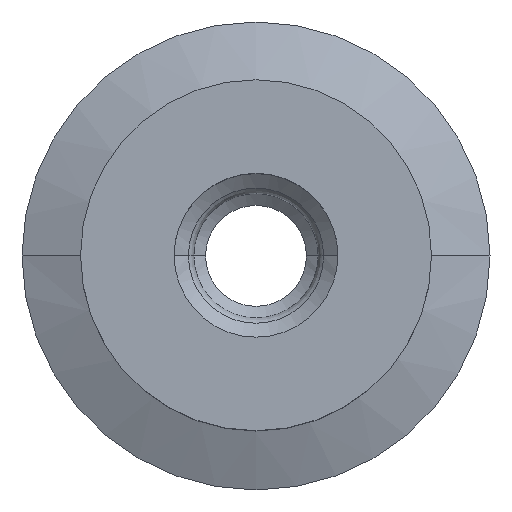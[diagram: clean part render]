
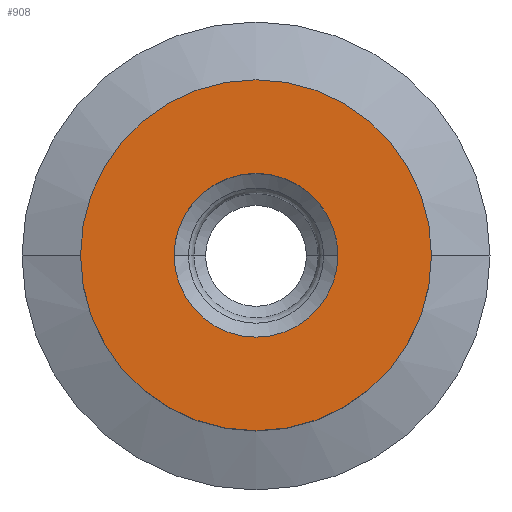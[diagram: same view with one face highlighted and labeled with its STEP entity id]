
A CAD part, top view. The second image highlights one B-rep face of the part: STEP entity #908.
In plain terms, the highlighted planar face has unit normal (0, 0, 1).
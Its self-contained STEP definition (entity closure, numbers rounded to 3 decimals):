
#12 = CARTESIAN_POINT ( 'NONE',  ( 3.5, 0., 0. ) ) ;
#49 = VERTEX_POINT ( 'NONE', #187 ) ;
#60 = CIRCLE ( 'NONE', #333, 7.5 ) ;
#68 = PLANE ( 'NONE',  #658 ) ;
#106 = CARTESIAN_POINT ( 'NONE',  ( -3.5, 0., 0. ) ) ;
#136 = AXIS2_PLACEMENT_3D ( 'NONE', #518, #849, #761 ) ;
#145 = CARTESIAN_POINT ( 'NONE',  ( 0., 0., 0. ) ) ;
#155 = EDGE_CURVE ( 'NONE', #532, #497, #586, .T. ) ;
#160 = CARTESIAN_POINT ( 'NONE',  ( 0., 0., 0. ) ) ;
#161 = ORIENTED_EDGE ( 'NONE', *, *, #861, .T. ) ;
#187 = CARTESIAN_POINT ( 'NONE',  ( 7.5, 0., 0. ) ) ;
#193 = DIRECTION ( 'NONE',  ( 0., 0., 1. ) ) ;
#237 = DIRECTION ( 'NONE',  ( -1., 0., 0. ) ) ;
#241 = EDGE_LOOP ( 'NONE', ( #926, #772 ) ) ;
#259 = AXIS2_PLACEMENT_3D ( 'NONE', #288, #193, #332 ) ;
#288 = CARTESIAN_POINT ( 'NONE',  ( 0., 0., 0. ) ) ;
#332 = DIRECTION ( 'NONE',  ( 1., 0., 0. ) ) ;
#333 = AXIS2_PLACEMENT_3D ( 'NONE', #145, #946, #511 ) ;
#359 = DIRECTION ( 'NONE',  ( 0., 0., 1. ) ) ;
#434 = AXIS2_PLACEMENT_3D ( 'NONE', #160, #359, #933 ) ;
#471 = FACE_OUTER_BOUND ( 'NONE', #599, .T. ) ;
#497 = VERTEX_POINT ( 'NONE', #12 ) ;
#508 = CARTESIAN_POINT ( 'NONE',  ( 0., 0., 0. ) ) ;
#511 = DIRECTION ( 'NONE',  ( 1., 0., 0. ) ) ;
#518 = CARTESIAN_POINT ( 'NONE',  ( 0., 0., 0. ) ) ;
#532 = VERTEX_POINT ( 'NONE', #106 ) ;
#578 = ORIENTED_EDGE ( 'NONE', *, *, #770, .T. ) ;
#586 = CIRCLE ( 'NONE', #259, 3.5 ) ;
#599 = EDGE_LOOP ( 'NONE', ( #161, #578 ) ) ;
#636 = CARTESIAN_POINT ( 'NONE',  ( -7.5, 0., 0. ) ) ;
#658 = AXIS2_PLACEMENT_3D ( 'NONE', #508, #702, #237 ) ;
#663 = CIRCLE ( 'NONE', #136, 7.5 ) ;
#692 = CIRCLE ( 'NONE', #434, 3.5 ) ;
#702 = DIRECTION ( 'NONE',  ( 0., 0., -1. ) ) ;
#761 = DIRECTION ( 'NONE',  ( 1., 0., 0. ) ) ;
#769 = EDGE_CURVE ( 'NONE', #497, #532, #692, .T. ) ;
#770 = EDGE_CURVE ( 'NONE', #804, #49, #60, .T. ) ;
#772 = ORIENTED_EDGE ( 'NONE', *, *, #155, .F. ) ;
#804 = VERTEX_POINT ( 'NONE', #636 ) ;
#837 = FACE_BOUND ( 'NONE', #241, .T. ) ;
#849 = DIRECTION ( 'NONE',  ( 0., 0., 1. ) ) ;
#861 = EDGE_CURVE ( 'NONE', #49, #804, #663, .T. ) ;
#908 = ADVANCED_FACE ( 'NONE', ( #471, #837 ), #68, .F. ) ;
#926 = ORIENTED_EDGE ( 'NONE', *, *, #769, .F. ) ;
#933 = DIRECTION ( 'NONE',  ( 1., 0., 0. ) ) ;
#946 = DIRECTION ( 'NONE',  ( 0., 0., 1. ) ) ;
